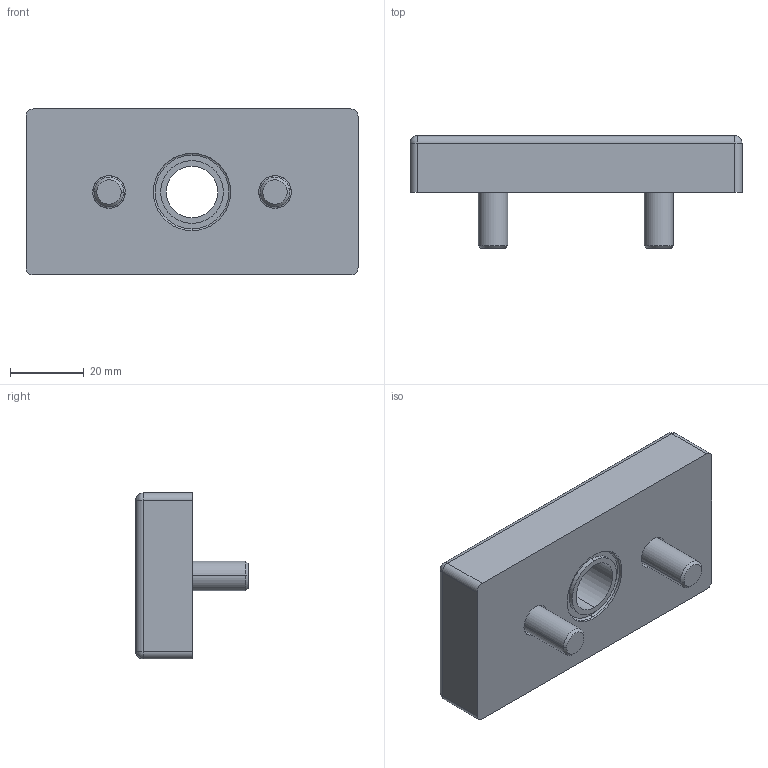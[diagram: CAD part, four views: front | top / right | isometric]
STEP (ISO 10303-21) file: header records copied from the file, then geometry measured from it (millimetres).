
FILE_DESCRIPTION (( 'STEP AP214' ), '1' );
FILE_NAME ('1.5010 Kierrelevy 45x90 M16.STEP', '2025-09-16T07:21:42', ( '' ), ( '' ), 'SwSTEP 2.0', 'SolidWorks 2025', '' );
FILE_SCHEMA (( 'AUTOMOTIVE_DESIGN' ));
Length unit declared in the file: millimetre
Products named in the file (1): 1.5010 Kierrelevy 45x90 M16
Bounding box: 90 x 30.5 x 45 mm (x, y, z)
Volume: 59751.6 mm3; surface area: 15492.2 mm2
Topology: 3 solids, 3 shells, 94 faces, 206 edges, 118 vertices
Faces by surface type: plane 40, cylinder 30, cone 10, torus 10, sphere 4
Entity records: 3591 total; most frequent: DIRECTION 486, CARTESIAN_POINT 411, ORIENTED_EDGE 396, EDGE_CURVE 198, AXIS2_PLACEMENT_3D 193, VERTEX_POINT 118, EDGE_LOOP 108, LINE 100
